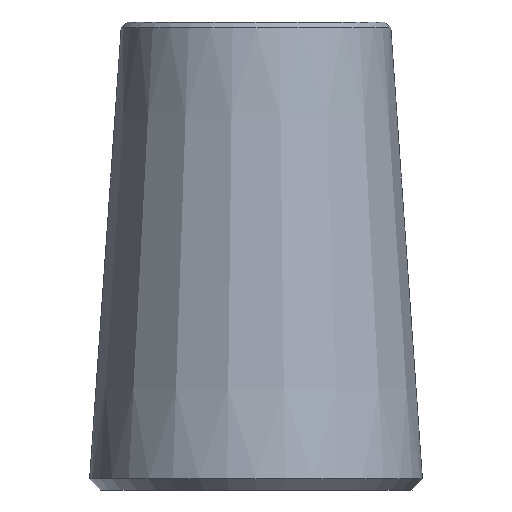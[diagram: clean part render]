
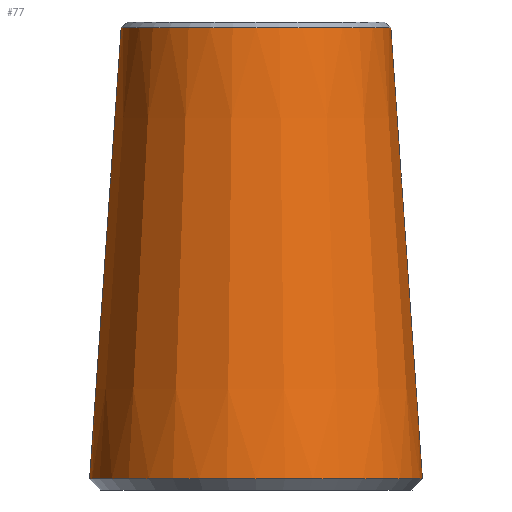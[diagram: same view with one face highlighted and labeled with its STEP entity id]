
A CAD part, left-side view. The second image highlights one B-rep face of the part: STEP entity #77.
In plain terms, the highlighted conical face has half-angle 4 degrees and reference radius 13.531 mm.
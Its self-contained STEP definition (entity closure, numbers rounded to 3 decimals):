
#20=FACE_BOUND('',#34,.T.);
#25=FACE_OUTER_BOUND('',#33,.T.);
#33=EDGE_LOOP('',(#63));
#34=EDGE_LOOP('',(#64));
#44=CIRCLE('',#87,14.93);
#45=CIRCLE('',#89,12.098);
#50=VERTEX_POINT('',#130);
#51=VERTEX_POINT('',#133);
#56=EDGE_CURVE('',#50,#50,#44,.T.);
#57=EDGE_CURVE('',#51,#51,#45,.T.);
#63=ORIENTED_EDGE('',*,*,#57,.F.);
#64=ORIENTED_EDGE('',*,*,#56,.F.);
#74=CONICAL_SURFACE('',#88,13.532,4.);
#77=ADVANCED_FACE('',(#25,#20),#74,.T.);
#87=AXIS2_PLACEMENT_3D('',#131,#104,#105);
#88=AXIS2_PLACEMENT_3D('',#132,#106,#107);
#89=AXIS2_PLACEMENT_3D('',#134,#108,#109);
#104=DIRECTION('center_axis',(0.,0.,-1.));
#105=DIRECTION('ref_axis',(0.,1.,0.));
#106=DIRECTION('center_axis',(0.,0.,-1.));
#107=DIRECTION('ref_axis',(0.,-1.,0.));
#108=DIRECTION('center_axis',(0.,0.,1.));
#109=DIRECTION('ref_axis',(0.,1.,0.));
#130=CARTESIAN_POINT('',(0.,-14.93,0.998));
#131=CARTESIAN_POINT('Origin',(0.,0.,0.998));
#132=CARTESIAN_POINT('Origin',(0.,0.,21.));
#133=CARTESIAN_POINT('',(0.,-12.098,41.501));
#134=CARTESIAN_POINT('Origin',(0.,0.,41.501));
